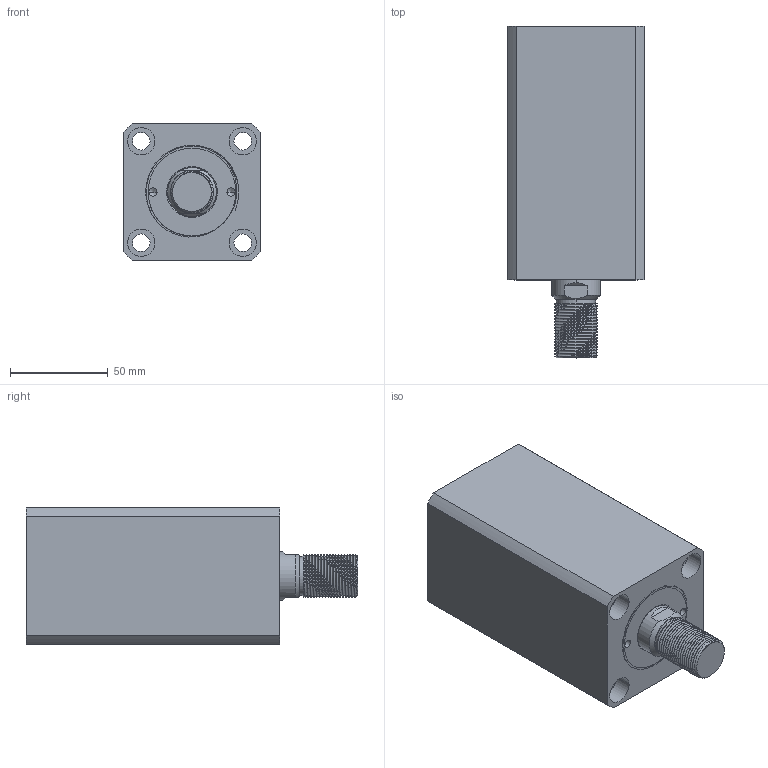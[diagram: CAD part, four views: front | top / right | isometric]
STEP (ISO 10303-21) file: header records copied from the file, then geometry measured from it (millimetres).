
FILE_DESCRIPTION (( 'STEP AP214' ), '1' );
FILE_NAME ('chtb-sd40x75w_asm.STEP', '2018-06-08T05:52:52', ( 'Windows' ), ( 'Microsoft' ), 'SwSTEP 2.0', 'SolidWorks 2015', '' );
FILE_SCHEMA (( 'AUTOMOTIVE_DESIGN' ));
Length unit declared in the file: millimetre
Products named in the file (4): CHTB-SD40QG; CHTB-SD40X75NBT; CHTB-SD40X75WHSG; chtb-sd40x75w_asm
Assembly tree (3 placements, depth 2):
  chtb-sd40x75w_asm
    CHTB-SD40X75WHSG
    CHTB-SD40X75NBT
    CHTB-SD40QG
Bounding box: 70 x 170 x 70 mm (x, y, z)
Volume: 543484.3 mm3; surface area: 105989.9 mm2
Topology: 3 solids, 4 shells, 203 faces, 533 edges, 355 vertices
Faces by surface type: cylinder 118, plane 40, bspline 16, cone 15, torus 14
Entity records: 13425 total; most frequent: CARTESIAN_POINT 8554, ORIENTED_EDGE 1054, DIRECTION 914, EDGE_CURVE 527, AXIS2_PLACEMENT_3D 380, VERTEX_POINT 355, EDGE_LOOP 240, ADVANCED_FACE 203
